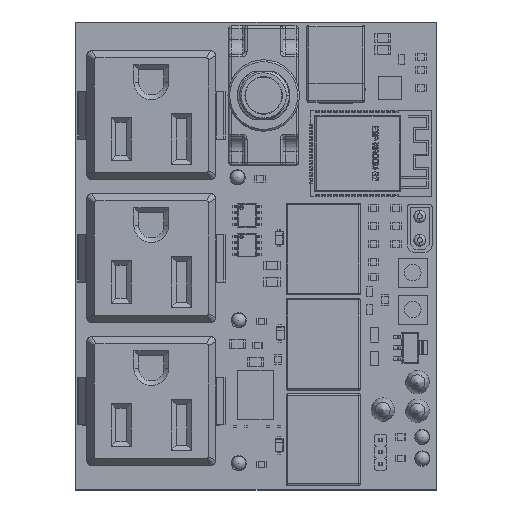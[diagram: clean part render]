
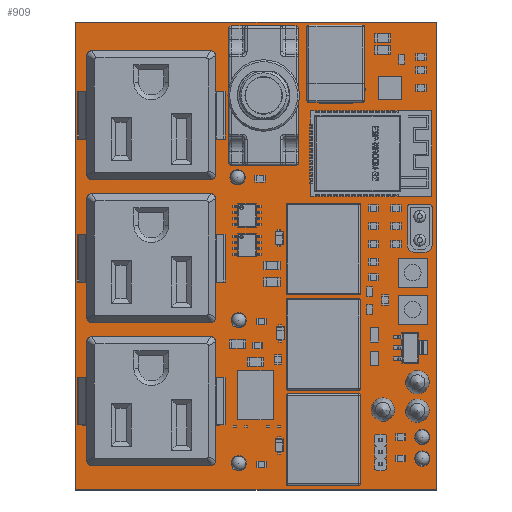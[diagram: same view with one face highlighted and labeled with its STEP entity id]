
A CAD part, top view. The second image highlights one B-rep face of the part: STEP entity #909.
In plain terms, the highlighted planar face has unit normal (0, 0, 1).
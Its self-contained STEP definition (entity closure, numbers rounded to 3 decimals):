
#287 = VERTEX_POINT('',#288);
#288 = CARTESIAN_POINT('',(24.9,25.,1.646));
#295 = PLANE('',#296);
#296 = AXIS2_PLACEMENT_3D('',#297,#298,#299);
#297 = CARTESIAN_POINT('',(24.9,25.,0.));
#298 = DIRECTION('',(0.707,0.707,0.));
#299 = DIRECTION('',(0.707,-0.707,0.));
#307 = PLANE('',#308);
#308 = AXIS2_PLACEMENT_3D('',#309,#310,#311);
#309 = CARTESIAN_POINT('',(24.9,123.,0.));
#310 = DIRECTION('',(1.,0.,0.));
#311 = DIRECTION('',(0.,-1.,0.));
#319 = EDGE_CURVE('',#287,#320,#322,.T.);
#320 = VERTEX_POINT('',#321);
#321 = CARTESIAN_POINT('',(25.,24.9,1.646));
#322 = SURFACE_CURVE('',#323,(#327,#334),.PCURVE_S1.);
#323 = LINE('',#324,#325);
#324 = CARTESIAN_POINT('',(24.9,25.,1.646));
#325 = VECTOR('',#326,1.);
#326 = DIRECTION('',(0.707,-0.707,0.));
#327 = PCURVE('',#295,#328);
#328 = DEFINITIONAL_REPRESENTATION('',(#329),#333);
#329 = LINE('',#330,#331);
#330 = CARTESIAN_POINT('',(0.,-1.646));
#331 = VECTOR('',#332,1.);
#332 = DIRECTION('',(1.,0.));
#333 = ( GEOMETRIC_REPRESENTATION_CONTEXT(2) 
PARAMETRIC_REPRESENTATION_CONTEXT() REPRESENTATION_CONTEXT('2D SPACE',''
  ) );
#334 = PCURVE('',#335,#340);
#335 = PLANE('',#336);
#336 = AXIS2_PLACEMENT_3D('',#337,#338,#339);
#337 = CARTESIAN_POINT('',(24.9,25.,1.646));
#338 = DIRECTION('',(0.,0.,-1.));
#339 = DIRECTION('',(-1.,0.,0.));
#340 = DEFINITIONAL_REPRESENTATION('',(#341),#345);
#341 = LINE('',#342,#343);
#342 = CARTESIAN_POINT('',(0.,0.));
#343 = VECTOR('',#344,1.);
#344 = DIRECTION('',(-0.707,-0.707));
#345 = ( GEOMETRIC_REPRESENTATION_CONTEXT(2) 
PARAMETRIC_REPRESENTATION_CONTEXT() REPRESENTATION_CONTEXT('2D SPACE',''
  ) );
#363 = PLANE('',#364);
#364 = AXIS2_PLACEMENT_3D('',#365,#366,#367);
#365 = CARTESIAN_POINT('',(25.,24.9,0.));
#366 = DIRECTION('',(0.,1.,0.));
#367 = DIRECTION('',(1.,0.,0.));
#405 = EDGE_CURVE('',#320,#406,#408,.T.);
#406 = VERTEX_POINT('',#407);
#407 = CARTESIAN_POINT('',(100.75,24.9,1.646));
#408 = SURFACE_CURVE('',#409,(#413,#420),.PCURVE_S1.);
#409 = LINE('',#410,#411);
#410 = CARTESIAN_POINT('',(25.,24.9,1.646));
#411 = VECTOR('',#412,1.);
#412 = DIRECTION('',(1.,0.,0.));
#413 = PCURVE('',#363,#414);
#414 = DEFINITIONAL_REPRESENTATION('',(#415),#419);
#415 = LINE('',#416,#417);
#416 = CARTESIAN_POINT('',(0.,-1.646));
#417 = VECTOR('',#418,1.);
#418 = DIRECTION('',(1.,0.));
#419 = ( GEOMETRIC_REPRESENTATION_CONTEXT(2) 
PARAMETRIC_REPRESENTATION_CONTEXT() REPRESENTATION_CONTEXT('2D SPACE',''
  ) );
#420 = PCURVE('',#335,#421);
#421 = DEFINITIONAL_REPRESENTATION('',(#422),#426);
#422 = LINE('',#423,#424);
#423 = CARTESIAN_POINT('',(-0.1,-0.1));
#424 = VECTOR('',#425,1.);
#425 = DIRECTION('',(-1.,0.));
#426 = ( GEOMETRIC_REPRESENTATION_CONTEXT(2) 
PARAMETRIC_REPRESENTATION_CONTEXT() REPRESENTATION_CONTEXT('2D SPACE',''
  ) );
#444 = PLANE('',#445);
#445 = AXIS2_PLACEMENT_3D('',#446,#447,#448);
#446 = CARTESIAN_POINT('',(100.75,24.9,0.));
#447 = DIRECTION('',(-0.707,0.707,0.));
#448 = DIRECTION('',(0.707,0.707,0.));
#481 = EDGE_CURVE('',#406,#482,#484,.T.);
#482 = VERTEX_POINT('',#483);
#483 = CARTESIAN_POINT('',(100.85,25.,1.646));
#484 = SURFACE_CURVE('',#485,(#489,#496),.PCURVE_S1.);
#485 = LINE('',#486,#487);
#486 = CARTESIAN_POINT('',(100.75,24.9,1.646));
#487 = VECTOR('',#488,1.);
#488 = DIRECTION('',(0.707,0.707,0.));
#489 = PCURVE('',#444,#490);
#490 = DEFINITIONAL_REPRESENTATION('',(#491),#495);
#491 = LINE('',#492,#493);
#492 = CARTESIAN_POINT('',(0.,-1.646));
#493 = VECTOR('',#494,1.);
#494 = DIRECTION('',(1.,0.));
#495 = ( GEOMETRIC_REPRESENTATION_CONTEXT(2) 
PARAMETRIC_REPRESENTATION_CONTEXT() REPRESENTATION_CONTEXT('2D SPACE',''
  ) );
#496 = PCURVE('',#335,#497);
#497 = DEFINITIONAL_REPRESENTATION('',(#498),#502);
#498 = LINE('',#499,#500);
#499 = CARTESIAN_POINT('',(-75.85,-0.1));
#500 = VECTOR('',#501,1.);
#501 = DIRECTION('',(-0.707,0.707));
#502 = ( GEOMETRIC_REPRESENTATION_CONTEXT(2) 
PARAMETRIC_REPRESENTATION_CONTEXT() REPRESENTATION_CONTEXT('2D SPACE',''
  ) );
#520 = PLANE('',#521);
#521 = AXIS2_PLACEMENT_3D('',#522,#523,#524);
#522 = CARTESIAN_POINT('',(100.85,25.,0.));
#523 = DIRECTION('',(-1.,0.,0.));
#524 = DIRECTION('',(0.,1.,0.));
#557 = EDGE_CURVE('',#482,#558,#560,.T.);
#558 = VERTEX_POINT('',#559);
#559 = CARTESIAN_POINT('',(100.85,123.,1.646));
#560 = SURFACE_CURVE('',#561,(#565,#572),.PCURVE_S1.);
#561 = LINE('',#562,#563);
#562 = CARTESIAN_POINT('',(100.85,25.,1.646));
#563 = VECTOR('',#564,1.);
#564 = DIRECTION('',(0.,1.,0.));
#565 = PCURVE('',#520,#566);
#566 = DEFINITIONAL_REPRESENTATION('',(#567),#571);
#567 = LINE('',#568,#569);
#568 = CARTESIAN_POINT('',(0.,-1.646));
#569 = VECTOR('',#570,1.);
#570 = DIRECTION('',(1.,0.));
#571 = ( GEOMETRIC_REPRESENTATION_CONTEXT(2) 
PARAMETRIC_REPRESENTATION_CONTEXT() REPRESENTATION_CONTEXT('2D SPACE',''
  ) );
#572 = PCURVE('',#335,#573);
#573 = DEFINITIONAL_REPRESENTATION('',(#574),#578);
#574 = LINE('',#575,#576);
#575 = CARTESIAN_POINT('',(-75.95,0.));
#576 = VECTOR('',#577,1.);
#577 = DIRECTION('',(0.,1.));
#578 = ( GEOMETRIC_REPRESENTATION_CONTEXT(2) 
PARAMETRIC_REPRESENTATION_CONTEXT() REPRESENTATION_CONTEXT('2D SPACE',''
  ) );
#596 = PLANE('',#597);
#597 = AXIS2_PLACEMENT_3D('',#598,#599,#600);
#598 = CARTESIAN_POINT('',(100.85,123.,0.));
#599 = DIRECTION('',(-0.707,-0.707,0.));
#600 = DIRECTION('',(-0.707,0.707,0.));
#633 = EDGE_CURVE('',#558,#634,#636,.T.);
#634 = VERTEX_POINT('',#635);
#635 = CARTESIAN_POINT('',(100.75,123.1,1.646));
#636 = SURFACE_CURVE('',#637,(#641,#648),.PCURVE_S1.);
#637 = LINE('',#638,#639);
#638 = CARTESIAN_POINT('',(100.85,123.,1.646));
#639 = VECTOR('',#640,1.);
#640 = DIRECTION('',(-0.707,0.707,0.));
#641 = PCURVE('',#596,#642);
#642 = DEFINITIONAL_REPRESENTATION('',(#643),#647);
#643 = LINE('',#644,#645);
#644 = CARTESIAN_POINT('',(0.,-1.646));
#645 = VECTOR('',#646,1.);
#646 = DIRECTION('',(1.,0.));
#647 = ( GEOMETRIC_REPRESENTATION_CONTEXT(2) 
PARAMETRIC_REPRESENTATION_CONTEXT() REPRESENTATION_CONTEXT('2D SPACE',''
  ) );
#648 = PCURVE('',#335,#649);
#649 = DEFINITIONAL_REPRESENTATION('',(#650),#654);
#650 = LINE('',#651,#652);
#651 = CARTESIAN_POINT('',(-75.95,98.));
#652 = VECTOR('',#653,1.);
#653 = DIRECTION('',(0.707,0.707));
#654 = ( GEOMETRIC_REPRESENTATION_CONTEXT(2) 
PARAMETRIC_REPRESENTATION_CONTEXT() REPRESENTATION_CONTEXT('2D SPACE',''
  ) );
#672 = PLANE('',#673);
#673 = AXIS2_PLACEMENT_3D('',#674,#675,#676);
#674 = CARTESIAN_POINT('',(100.75,123.1,0.));
#675 = DIRECTION('',(0.,-1.,0.));
#676 = DIRECTION('',(-1.,0.,0.));
#709 = EDGE_CURVE('',#634,#710,#712,.T.);
#710 = VERTEX_POINT('',#711);
#711 = CARTESIAN_POINT('',(25.,123.1,1.646));
#712 = SURFACE_CURVE('',#713,(#717,#724),.PCURVE_S1.);
#713 = LINE('',#714,#715);
#714 = CARTESIAN_POINT('',(100.75,123.1,1.646));
#715 = VECTOR('',#716,1.);
#716 = DIRECTION('',(-1.,0.,0.));
#717 = PCURVE('',#672,#718);
#718 = DEFINITIONAL_REPRESENTATION('',(#719),#723);
#719 = LINE('',#720,#721);
#720 = CARTESIAN_POINT('',(0.,-1.646));
#721 = VECTOR('',#722,1.);
#722 = DIRECTION('',(1.,0.));
#723 = ( GEOMETRIC_REPRESENTATION_CONTEXT(2) 
PARAMETRIC_REPRESENTATION_CONTEXT() REPRESENTATION_CONTEXT('2D SPACE',''
  ) );
#724 = PCURVE('',#335,#725);
#725 = DEFINITIONAL_REPRESENTATION('',(#726),#730);
#726 = LINE('',#727,#728);
#727 = CARTESIAN_POINT('',(-75.85,98.1));
#728 = VECTOR('',#729,1.);
#729 = DIRECTION('',(1.,0.));
#730 = ( GEOMETRIC_REPRESENTATION_CONTEXT(2) 
PARAMETRIC_REPRESENTATION_CONTEXT() REPRESENTATION_CONTEXT('2D SPACE',''
  ) );
#748 = PLANE('',#749);
#749 = AXIS2_PLACEMENT_3D('',#750,#751,#752);
#750 = CARTESIAN_POINT('',(25.,123.1,0.));
#751 = DIRECTION('',(0.707,-0.707,0.));
#752 = DIRECTION('',(-0.707,-0.707,0.));
#785 = EDGE_CURVE('',#710,#786,#788,.T.);
#786 = VERTEX_POINT('',#787);
#787 = CARTESIAN_POINT('',(24.9,123.,1.646));
#788 = SURFACE_CURVE('',#789,(#793,#800),.PCURVE_S1.);
#789 = LINE('',#790,#791);
#790 = CARTESIAN_POINT('',(25.,123.1,1.646));
#791 = VECTOR('',#792,1.);
#792 = DIRECTION('',(-0.707,-0.707,0.));
#793 = PCURVE('',#748,#794);
#794 = DEFINITIONAL_REPRESENTATION('',(#795),#799);
#795 = LINE('',#796,#797);
#796 = CARTESIAN_POINT('',(0.,-1.646));
#797 = VECTOR('',#798,1.);
#798 = DIRECTION('',(1.,0.));
#799 = ( GEOMETRIC_REPRESENTATION_CONTEXT(2) 
PARAMETRIC_REPRESENTATION_CONTEXT() REPRESENTATION_CONTEXT('2D SPACE',''
  ) );
#800 = PCURVE('',#335,#801);
#801 = DEFINITIONAL_REPRESENTATION('',(#802),#806);
#802 = LINE('',#803,#804);
#803 = CARTESIAN_POINT('',(-0.1,98.1));
#804 = VECTOR('',#805,1.);
#805 = DIRECTION('',(0.707,-0.707));
#806 = ( GEOMETRIC_REPRESENTATION_CONTEXT(2) 
PARAMETRIC_REPRESENTATION_CONTEXT() REPRESENTATION_CONTEXT('2D SPACE',''
  ) );
#856 = EDGE_CURVE('',#786,#287,#857,.T.);
#857 = SURFACE_CURVE('',#858,(#862,#869),.PCURVE_S1.);
#858 = LINE('',#859,#860);
#859 = CARTESIAN_POINT('',(24.9,123.,1.646));
#860 = VECTOR('',#861,1.);
#861 = DIRECTION('',(0.,-1.,0.));
#862 = PCURVE('',#307,#863);
#863 = DEFINITIONAL_REPRESENTATION('',(#864),#868);
#864 = LINE('',#865,#866);
#865 = CARTESIAN_POINT('',(0.,-1.646));
#866 = VECTOR('',#867,1.);
#867 = DIRECTION('',(1.,0.));
#868 = ( GEOMETRIC_REPRESENTATION_CONTEXT(2) 
PARAMETRIC_REPRESENTATION_CONTEXT() REPRESENTATION_CONTEXT('2D SPACE',''
  ) );
#869 = PCURVE('',#335,#870);
#870 = DEFINITIONAL_REPRESENTATION('',(#871),#875);
#871 = LINE('',#872,#873);
#872 = CARTESIAN_POINT('',(0.,98.));
#873 = VECTOR('',#874,1.);
#874 = DIRECTION('',(0.,-1.));
#875 = ( GEOMETRIC_REPRESENTATION_CONTEXT(2) 
PARAMETRIC_REPRESENTATION_CONTEXT() REPRESENTATION_CONTEXT('2D SPACE',''
  ) );
#909 = ADVANCED_FACE('',(#910),#335,.F.);
#910 = FACE_BOUND('',#911,.T.);
#911 = EDGE_LOOP('',(#912,#913,#914,#915,#916,#917,#918,#919));
#912 = ORIENTED_EDGE('',*,*,#319,.T.);
#913 = ORIENTED_EDGE('',*,*,#405,.T.);
#914 = ORIENTED_EDGE('',*,*,#481,.T.);
#915 = ORIENTED_EDGE('',*,*,#557,.T.);
#916 = ORIENTED_EDGE('',*,*,#633,.T.);
#917 = ORIENTED_EDGE('',*,*,#709,.T.);
#918 = ORIENTED_EDGE('',*,*,#785,.T.);
#919 = ORIENTED_EDGE('',*,*,#856,.T.);
